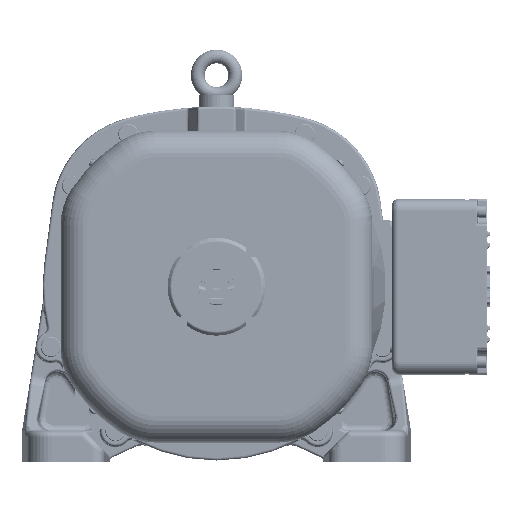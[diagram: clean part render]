
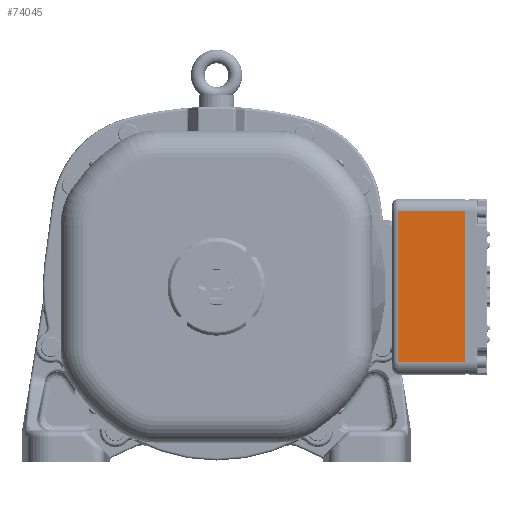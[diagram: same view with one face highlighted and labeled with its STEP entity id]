
A CAD part, front view. The second image highlights one B-rep face of the part: STEP entity #74045.
In plain terms, the highlighted planar face has unit normal (0, -1, 0).
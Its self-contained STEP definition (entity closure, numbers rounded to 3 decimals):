
#6043=PLANE('',#80395);
#9409=FACE_OUTER_BOUND('',#13883,.T.);
#13883=EDGE_LOOP('',(#57892,#57893,#57894,#57895));
#15770=LINE('',#100211,#19984);
#17874=LINE('',#147794,#22088);
#17879=LINE('',#147833,#22093);
#17880=LINE('',#147834,#22094);
#19984=VECTOR('',#82733,10.);
#22088=VECTOR('',#93957,10.);
#22093=VECTOR('',#93982,10.);
#22094=VECTOR('',#93983,10.);
#27767=VERTEX_POINT('',#100208);
#27768=VERTEX_POINT('',#100210);
#31595=VERTEX_POINT('',#147784);
#31597=VERTEX_POINT('',#147790);
#34422=EDGE_CURVE('',#27767,#27768,#15770,.T.);
#40784=EDGE_CURVE('',#31595,#31597,#17874,.T.);
#40796=EDGE_CURVE('',#31595,#27768,#17879,.T.);
#40797=EDGE_CURVE('',#31597,#27767,#17880,.T.);
#57892=ORIENTED_EDGE('',*,*,#40784,.F.);
#57893=ORIENTED_EDGE('',*,*,#40796,.T.);
#57894=ORIENTED_EDGE('',*,*,#34422,.F.);
#57895=ORIENTED_EDGE('',*,*,#40797,.F.);
#74045=ADVANCED_FACE('',(#9409),#6043,.T.);
#80395=AXIS2_PLACEMENT_3D('',#147832,#93980,#93981);
#82733=DIRECTION('',(0.,0.,-1.));
#93957=DIRECTION('',(0.,0.,1.));
#93980=DIRECTION('center_axis',(0.,-1.,0.));
#93981=DIRECTION('ref_axis',(0.,0.,
-1.));
#93982=DIRECTION('',(1.,0.,0.));
#93983=DIRECTION('',(1.,0.,0.));
#100208=CARTESIAN_POINT('',(187.454,-264.758,58.25));
#100210=CARTESIAN_POINT('',(187.454,-264.758,-61.75));
#100211=CARTESIAN_POINT('',(187.454,-264.758,-61.75));
#147784=CARTESIAN_POINT('',(134.454,-264.758,-61.75));
#147790=CARTESIAN_POINT('',(134.454,-264.758,58.25));
#147794=CARTESIAN_POINT('',(134.454,-264.758,28.25));
#147832=CARTESIAN_POINT('Origin',(129.454,-264.758,58.25));
#147833=CARTESIAN_POINT('',(129.454,-264.758,-61.75));
#147834=CARTESIAN_POINT('',(129.454,-264.758,58.25));
